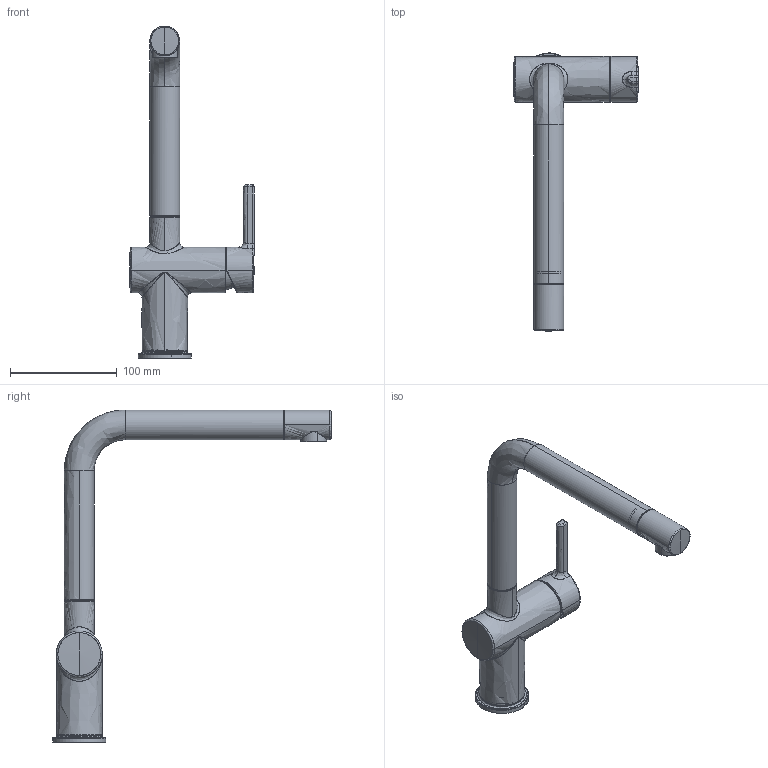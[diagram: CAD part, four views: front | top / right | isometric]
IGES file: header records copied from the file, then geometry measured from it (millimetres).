
Global section: file name: F:\_CONVERSIONE_CAD_2024_2025\03_3D kits new\08_Taps\Active\3D001_Taps_Active_Spout\3D001_Taps_Active_Spout.igs; native system: Rhinoceros ( Jan  9 2024 ); preprocessor: Trout Lake IGES 012 Jan  9 2024; date: 240130.100153; units: millimetre
Bounding box: 117.03 x 261.49 x 311.5 mm (x, y, z)
Surface area: 134846 mm2 (no closed solid volume)
Topology: 0 solids, 0 shells, 5686 faces, 40640 edges, 40621 vertices
Faces by surface type: bspline 5686
